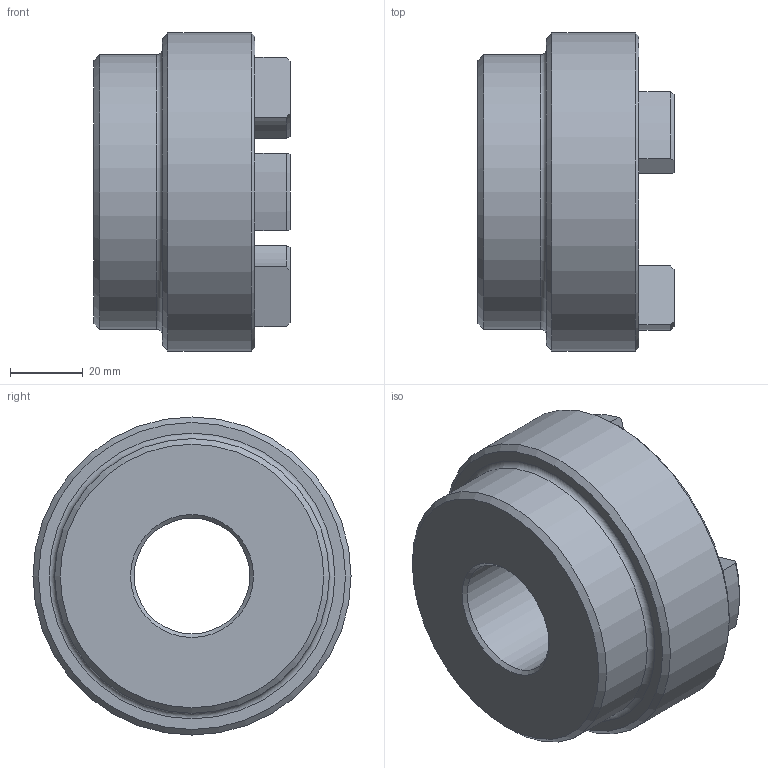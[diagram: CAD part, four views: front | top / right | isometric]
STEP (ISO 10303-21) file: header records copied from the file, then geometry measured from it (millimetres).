
FILE_DESCRIPTION (( 'STEP AP203' ), '1' );
FILE_NAME ('RC3.step', '2024-07-24T12:48:36', ( 'Adlan' ), ( '' ), 'SwSTEP 2.0', 'SolidWorks 2013', '' );
FILE_SCHEMA (( 'CONFIG_CONTROL_DESIGN' ));
Length unit declared in the file: inch
Products named in the file (1): RC3
Bounding box: 53.85 x 87.38 x 87.38 mm (x, y, z)
Volume: 170453.1 mm3; surface area: 29772.4 mm2
Topology: 1 solids, 1 shells, 60 faces, 146 edges, 90 vertices
Faces by surface type: cylinder 24, plane 13, torus 13, cone 10
Full cylindrical faces by diameter (mm): 31.763 x1, 75.438 x1, 87.376 x1
Entity records: 1841 total; most frequent: CARTESIAN_POINT 341, DIRECTION 324, ORIENTED_EDGE 274, EDGE_CURVE 137, AXIS2_PLACEMENT_3D 132, VERTEX_POINT 89, EDGE_LOOP 72, CIRCLE 71
